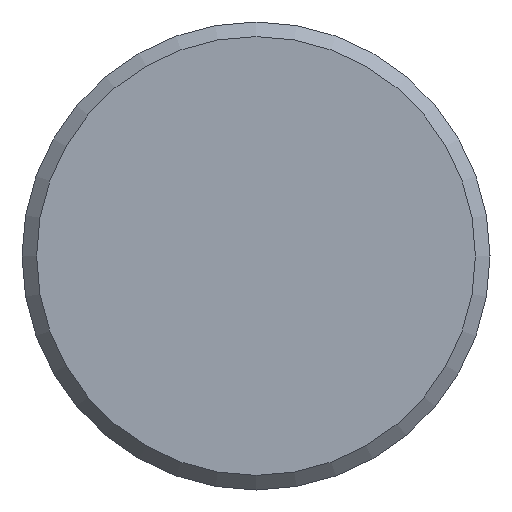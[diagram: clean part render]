
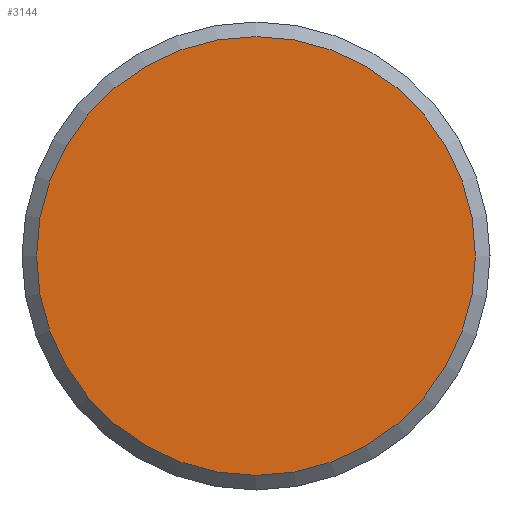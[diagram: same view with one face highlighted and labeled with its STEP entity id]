
A CAD part, left-side view. The second image highlights one B-rep face of the part: STEP entity #3144.
In plain terms, the highlighted planar face has unit normal (-1, 0, 0).
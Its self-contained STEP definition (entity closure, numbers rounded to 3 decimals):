
#1134=PLANE('',#2895);
#1180=ORIENTED_EDGE('',*,*,#1600,.F.);
#1388=CIRCLE('',#2894,7.5);
#1494=VERTEX_POINT('',#2573);
#1600=EDGE_CURVE('',#1494,#1494,#1388,.T.);
#1710=EDGE_LOOP('',(#1180));
#1922=FACE_BOUND('',#1710,.T.);
#2141=DIRECTION('',(1.,0.,0.));
#2142=DIRECTION('',(0.,-7.5,0.));
#2143=DIRECTION('',(-1.,0.,0.));
#2144=DIRECTION('',(0.,1.,0.));
#2573=CARTESIAN_POINT('',(0.,-7.5,0.));
#2574=CARTESIAN_POINT('',(0.,0.,0.));
#2575=CARTESIAN_POINT('',(0.,0.,0.));
#2894=AXIS2_PLACEMENT_3D('',#2574,#2141,#2142);
#2895=AXIS2_PLACEMENT_3D('',#2575,#2143,#2144);
#3144=ADVANCED_FACE('',(#1922),#1134,.T.);
